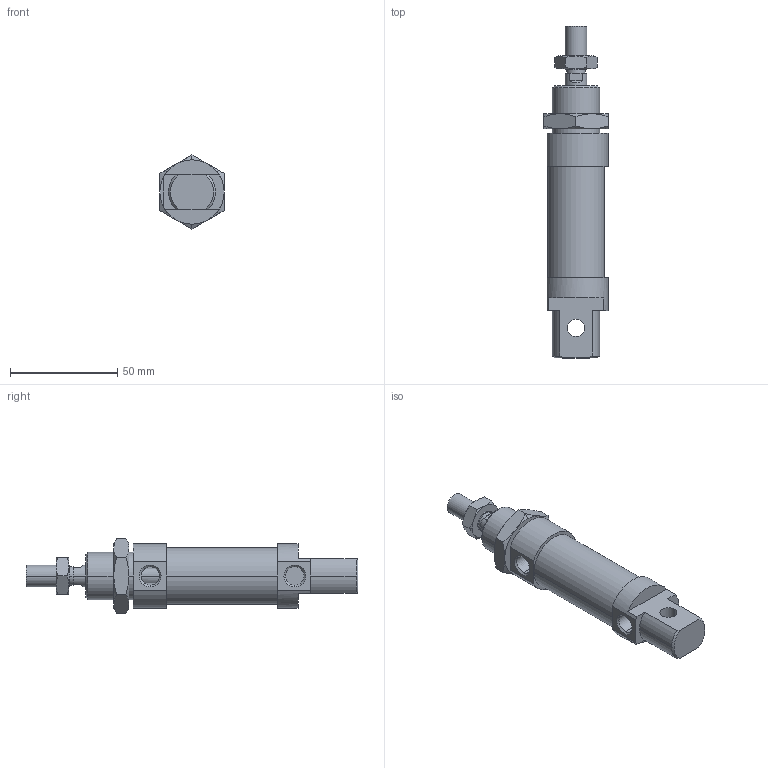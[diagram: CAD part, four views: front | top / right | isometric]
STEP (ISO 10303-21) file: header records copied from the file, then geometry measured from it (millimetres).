
FILE_DESCRIPTION((''),'2;1');
FILE_NAME('I:\DOC-EDP\Lib-3d\1200\CILINDRI\1280\1280_25_0015.stp','2003-04-07T17:59:40',('maffial1'),(''),'Autodesk Inventor (R) 6.0','Autodesk Inventor (R) 6.0','');
FILE_SCHEMA(('AUTOMOTIVE_DESIGN { 1 0 10303 214 1 1 1 1 }'));
Length unit declared in the file: millimetre
Products named in the file (5): 1280_25_0015; S1280_25_15; 1200_25_05; 1200_25_06; C1280_25_15
Assembly tree (4 placements, depth 2):
  1280_25_0015
    S1280_25_15
    1200_25_05
    1200_25_06
    C1280_25_15
Bounding box: 30 x 155 x 34.64 mm (x, y, z)
Volume: 68360.3 mm3; surface area: 19617.3 mm2
Topology: 4 solids, 4 shells, 124 faces, 281 edges, 170 vertices
Faces by surface type: plane 41, cone 40, cylinder 22, bspline 21
Entity records: 3808 total; most frequent: CARTESIAN_POINT 1031, DIRECTION 573, ORIENTED_EDGE 562, EDGE_CURVE 281, AXIS2_PLACEMENT_3D 236, VERTEX_POINT 170, EDGE_LOOP 137, FACE_OUTER_BOUND 124
